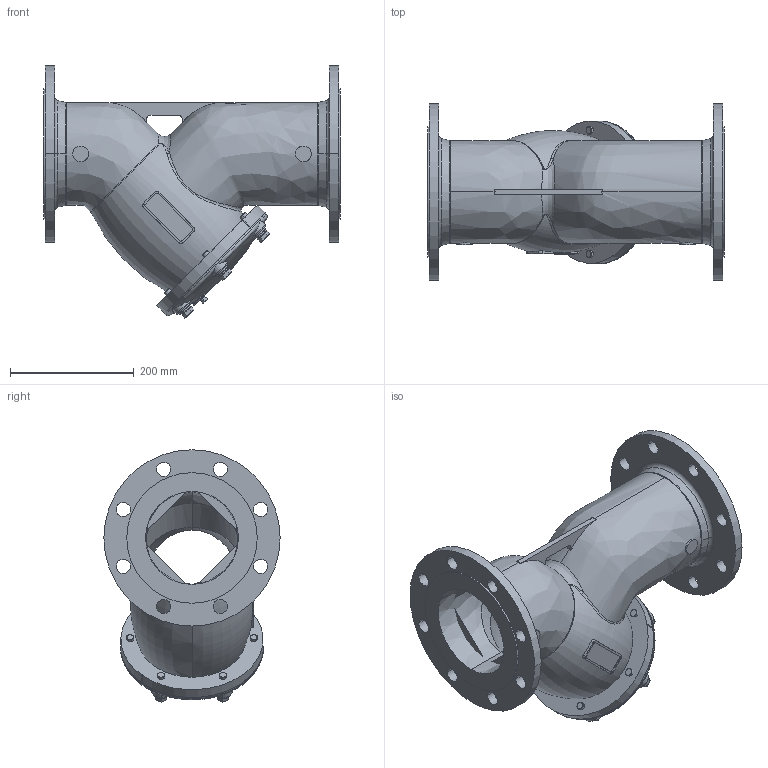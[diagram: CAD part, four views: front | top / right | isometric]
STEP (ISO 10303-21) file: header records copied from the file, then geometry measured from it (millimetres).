
FILE_DESCRIPTION(('Open CASCADE Model'),'2;1');
FILE_NAME('Open CASCADE Shape Model','2023-03-02T07:17:07',('Author'),( 'Open CASCADE'),'Open CASCADE STEP processor 7.3','Open CASCADE 7.3' ,'Unknown');
FILE_SCHEMA(('AUTOMOTIVE_DESIGN { 1 0 10303 214 1 1 1 1 }'));
Length unit declared in the file: millimetre
Products named in the file (22): Open CASCADE STEP translator 7.3 1; Open CASCADE STEP translator 7.3 1.1; Open CASCADE STEP translator 7.3 1.2; Open CASCADE STEP translator 7.3 1.3; Open CASCADE STEP translator 7.3 1.4; Open CASCADE STEP translator 7.3 1.5; Open CASCADE STEP translator 7.3 1.6; Open CASCADE STEP translator 7.3 1.7; Open CASCADE STEP translator 7.3 1.8; Open CASCADE STEP translator 7.3 1.9; Open CASCADE STEP translator 7.3 1.10; Open CASCADE STEP translator 7.3 1.11; Open CASCADE STEP translator 7.3 1.12; Open CASCADE STEP translator 7.3 1.13; Open CASCADE STEP translator 7.3 1.14; Open CASCADE STEP translator 7.3 1.15; Open CASCADE STEP translator 7.3 1.16; Open CASCADE STEP translator 7.3 1.17; Open CASCADE STEP translator 7.3 1.18; Open CASCADE STEP translator 7.3 1.19; Open CASCADE STEP translator 7.3 1.20; Open CASCADE STEP translator 7.3 1.21
Assembly tree (21 placements, depth 2):
  Open CASCADE STEP translator 7.3 1
    Open CASCADE STEP translator 7.3 1.1
    Open CASCADE STEP translator 7.3 1.2
    Open CASCADE STEP translator 7.3 1.3
    Open CASCADE STEP translator 7.3 1.4
    Open CASCADE STEP translator 7.3 1.5
    Open CASCADE STEP translator 7.3 1.6
    Open CASCADE STEP translator 7.3 1.7
    Open CASCADE STEP translator 7.3 1.8
    Open CASCADE STEP translator 7.3 1.9
    Open CASCADE STEP translator 7.3 1.10
    Open CASCADE STEP translator 7.3 1.11
    Open CASCADE STEP translator 7.3 1.12
    Open CASCADE STEP translator 7.3 1.13
    Open CASCADE STEP translator 7.3 1.14
    Open CASCADE STEP translator 7.3 1.15
    Open CASCADE STEP translator 7.3 1.16
    Open CASCADE STEP translator 7.3 1.17
    Open CASCADE STEP translator 7.3 1.18
    Open CASCADE STEP translator 7.3 1.19
    Open CASCADE STEP translator 7.3 1.20
    Open CASCADE STEP translator 7.3 1.21
Bounding box: 480 x 285 x 408.1 mm (x, y, z)
Volume: 4547917.9 mm3; surface area: 953301.1 mm2
Topology: 21 solids, 21 shells, 551 faces, 1359 edges, 859 vertices
Faces by surface type: cylinder 210, plane 195, cone 68, torus 38, bspline 28, sphere 8, revolution 4
Entity records: 61992 total; most frequent: CARTESIAN_POINT 35733, DIRECTION 4576, ORIENTED_EDGE 2710, PCURVE 2710, DEFINITIONAL_REPRESENTATION 2710, LINE 1935, VECTOR 1935, EDGE_CURVE 1355
